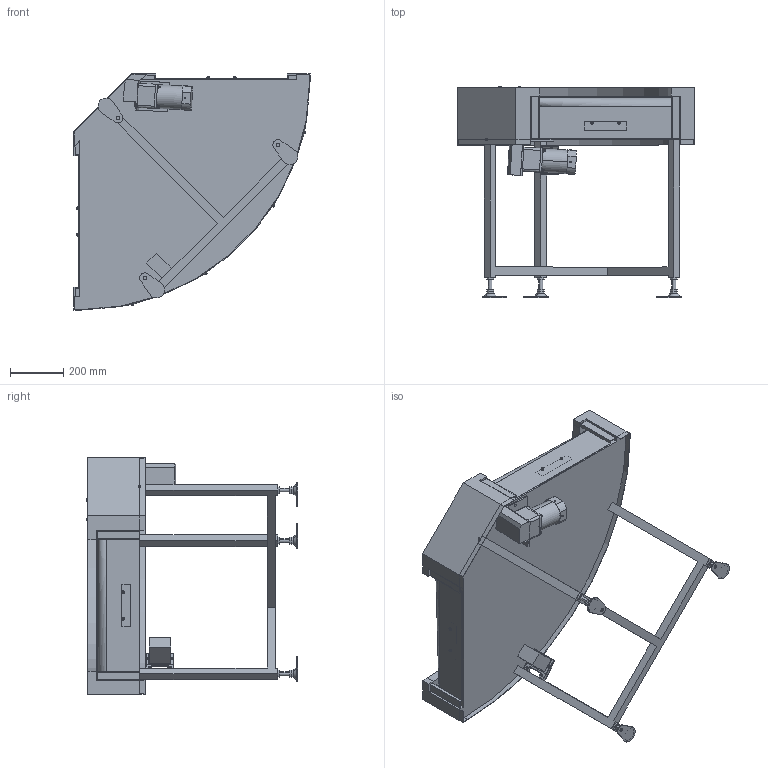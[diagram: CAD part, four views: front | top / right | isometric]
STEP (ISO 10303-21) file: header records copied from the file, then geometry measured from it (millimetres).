
FILE_DESCRIPTION( (''), '2;1');
FILE_NAME ('MBC2H-UD-309-500-90°-R-K-60-O.stp','2025-02-17T11:13:19',(''),(''),'spGate 20.6.2 (****-****-****-****)','','');
FILE_SCHEMA (('AUTOMOTIVE_DESIGN'));
Length unit declared in the file: millimetre
Products named in the file (47): NewModel; MBC2H-UD-309-500-90°-R-K-60-O; TEMP_X_T-prt0; TEMP_X_T-prt1; TEMP_X_T-prt2; TEMP_X_T-prt3; TEMP_X_T-prt4; TEMP_X_T-prt5; TEMP_X_T-prt6; TEMP_X_T-prt7; TEMP_X_T-prt8; TEMP_X_T-prt9; TEMP_X_T-prt10; TEMP_X_T-prt11; TEMP_X_T-prt12; TEMP_X_T-prt13; TEMP_X_T-prt14; TEMP_X_T-prt15; TEMP_X_T-prt16; TEMP_X_T-prt17; TEMP_X_T-prt18; TEMP_X_T-prt19; TEMP_X_T-prt20; TEMP_X_T-prt21; TEMP_X_T-prt22; TEMP_X_T-prt23; TEMP_X_T-prt24; TEMP_X_T-prt25; TEMP_X_T-prt26; TEMP_X_T-prt27; TEMP_X_T-prt28; TEMP_X_T-prt29; TEMP_X_T-prt30; TEMP_X_T-prt31; TEMP_X_T-prt32; TEMP_X_T-prt33; TEMP_X_T-prt34; TEMP_X_T-prt35; TEMP_X_T-prt36; TEMP_X_T-prt37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
Assembly tree (46 placements, depth 3):
  NewModel
    MBC2H-UD-309-500-90°-R-K-60-O
      TEMP_X_T-prt0
      TEMP_X_T-prt1
      TEMP_X_T-prt2
      TEMP_X_T-prt3
      TEMP_X_T-prt4
      TEMP_X_T-prt5
      TEMP_X_T-prt6
      TEMP_X_T-prt7
      TEMP_X_T-prt8
      TEMP_X_T-prt9
      TEMP_X_T-prt10
      TEMP_X_T-prt11
      TEMP_X_T-prt12
      TEMP_X_T-prt13
      TEMP_X_T-prt14
      TEMP_X_T-prt15
      TEMP_X_T-prt16
      TEMP_X_T-prt17
      TEMP_X_T-prt18
      TEMP_X_T-prt19
      TEMP_X_T-prt20
      TEMP_X_T-prt21
      TEMP_X_T-prt22
      TEMP_X_T-prt23
      TEMP_X_T-prt24
      TEMP_X_T-prt25
      TEMP_X_T-prt26
      TEMP_X_T-prt27
      TEMP_X_T-prt28
      TEMP_X_T-prt29
      TEMP_X_T-prt30
      TEMP_X_T-prt31
      TEMP_X_T-prt32
      TEMP_X_T-prt33
      TEMP_X_T-prt34
      TEMP_X_T-prt35
      TEMP_X_T-prt36
      TEMP_X_T-prt37
      TEMP_X_T-prt38
      TEMP_X_T-prt39
      TEMP_X_T-prt40
      TEMP_X_T-prt41
      TEMP_X_T-prt42
      TEMP_X_T-prt43
      TEMP_X_T-prt44
Bounding box: 888.1 x 794.6 x 888.1 mm (x, y, z)
Volume: 68803944.8 mm3; surface area: 4111876.2 mm2
Topology: 45 solids, 45 shells, 1194 faces, 2724 edges, 1717 vertices
Faces by surface type: plane 621, cylinder 314, bspline 259
Entity records: 62043 total; most frequent: CARTESIAN_POINT 12724, ORIENTED_EDGE 5448, DIRECTION 5036, COLOUR_RGB 3963, PRESENTATION_STYLE_ASSIGNMENT 3963, STYLED_ITEM 3963, EDGE_CURVE 2724, DRAUGHTING_PRE_DEFINED_CURVE_FONT 2724
